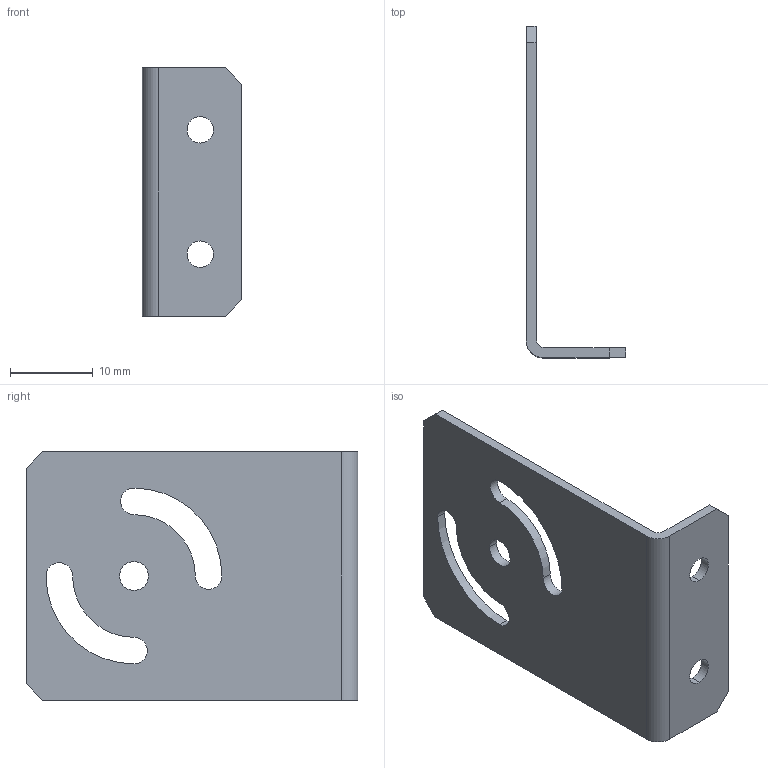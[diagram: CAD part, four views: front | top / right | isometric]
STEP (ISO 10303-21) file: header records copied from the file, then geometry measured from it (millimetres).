
FILE_DESCRIPTION (( 'STEP AP214' ), '1' );
FILE_NAME ('LBRX-3-ROW-BRACKET_(LEFT)-LBRX-3-ROW-BRACKET (LEFT).STEP', '2021-11-08T02:37:40', ( '' ), ( '' ), 'SwSTEP 2.0', 'SolidWorks 2021', '' );
FILE_SCHEMA (( 'AUTOMOTIVE_DESIGN' ));
Length unit declared in the file: millimetre
Products named in the file (1): LBRX-3-ROW-BRACKET_(LEFT)-LBRX-3-ROW-BRACKET (LEFT)
Bounding box: 12 x 40 x 30 mm (x, y, z)
Volume: 1641.2 mm3; surface area: 3045.2 mm2
Topology: 1 solids, 1 shells, 29 faces, 81 edges, 54 vertices
Faces by surface type: cylinder 17, plane 12
Entity records: 1003 total; most frequent: DIRECTION 175, CARTESIAN_POINT 165, ORIENTED_EDGE 162, EDGE_CURVE 81, AXIS2_PLACEMENT_3D 64, VERTEX_POINT 54, LINE 47, VECTOR 47
